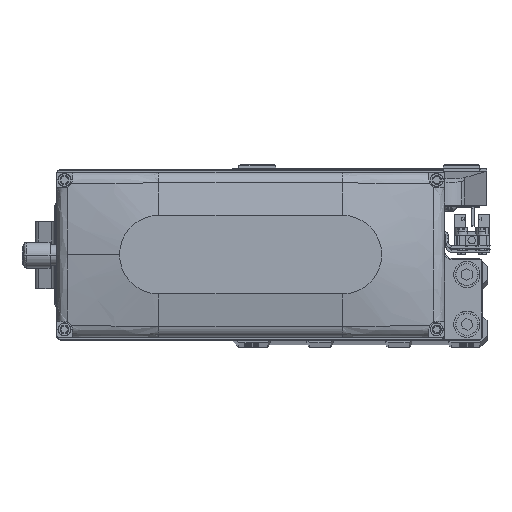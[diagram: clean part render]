
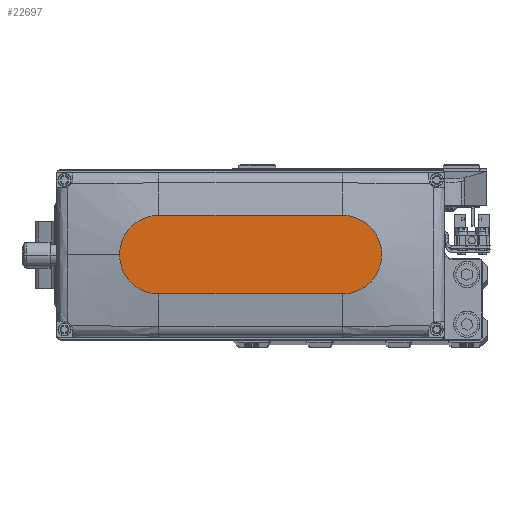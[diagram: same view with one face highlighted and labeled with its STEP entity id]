
A CAD part, top view. The second image highlights one B-rep face of the part: STEP entity #22697.
In plain terms, the highlighted planar face has unit normal (0, 0, 1).
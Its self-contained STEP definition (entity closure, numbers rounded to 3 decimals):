
#1425 = EDGE_LOOP ( 'NONE', ( #11982, #15395, #12683, #27023, #32508 ) ) ;
#1665 = EDGE_CURVE ( 'NONE', #28643, #29615, #27949, .T. ) ;
#2046 = EDGE_CURVE ( 'NONE', #22090, #30026, #31889, .T. ) ;
#4756 = CIRCLE ( 'NONE', #31956, 15. ) ;
#5053 = EDGE_CURVE ( 'NONE', #43294, #28643, #4756, .T. ) ;
#5590 = DIRECTION ( 'NONE',  ( 1., 0., 0. ) ) ;
#8748 = VECTOR ( 'NONE', #44406, 1000. ) ;
#8928 = DIRECTION ( 'NONE',  ( 1., 0., 0. ) ) ;
#9215 = PLANE ( 'NONE',  #9786 ) ;
#9630 = CARTESIAN_POINT ( 'NONE',  ( -35., 0., 35. ) ) ;
#9786 = AXIS2_PLACEMENT_3D ( 'NONE', #24080, #38911, #5590 ) ;
#11982 = ORIENTED_EDGE ( 'NONE', *, *, #20710, .T. ) ;
#12683 = ORIENTED_EDGE ( 'NONE', *, *, #43123, .T. ) ;
#12749 = CARTESIAN_POINT ( 'NONE',  ( -35., 15., 35. ) ) ;
#13357 = DIRECTION ( 'NONE',  ( 1., 0., 0. ) ) ;
#14698 = LINE ( 'NONE', #29552, #8748 ) ;
#15023 = CARTESIAN_POINT ( 'NONE',  ( 35., 15., 35. ) ) ;
#15395 = ORIENTED_EDGE ( 'NONE', *, *, #2046, .T. ) ;
#20668 = VECTOR ( 'NONE', #27600, 1000. ) ;
#20710 = EDGE_CURVE ( 'NONE', #29615, #22090, #46112, .T. ) ;
#22061 = CARTESIAN_POINT ( 'NONE',  ( -35., -15., 35. ) ) ;
#22090 = VERTEX_POINT ( 'NONE', #40934 ) ;
#22697 = ADVANCED_FACE ( 'NONE', ( #42562 ), #9215, .T. ) ;
#24080 = CARTESIAN_POINT ( 'NONE',  ( 0., 0., 35. ) ) ;
#24493 = DIRECTION ( 'NONE',  ( 0., 0., 1. ) ) ;
#27023 = ORIENTED_EDGE ( 'NONE', *, *, #5053, .T. ) ;
#27440 = CARTESIAN_POINT ( 'NONE',  ( 35., 0., 35. ) ) ;
#27600 = DIRECTION ( 'NONE',  ( -1., 0., 0. ) ) ;
#27949 = CIRCLE ( 'NONE', #27991, 15. ) ;
#27991 = AXIS2_PLACEMENT_3D ( 'NONE', #31855, #46729, #13357 ) ;
#28643 = VERTEX_POINT ( 'NONE', #46894 ) ;
#29552 = CARTESIAN_POINT ( 'NONE',  ( -35., -15., 35. ) ) ;
#29615 = VERTEX_POINT ( 'NONE', #15023 ) ;
#30026 = VERTEX_POINT ( 'NONE', #22061 ) ;
#31196 = AXIS2_PLACEMENT_3D ( 'NONE', #9630, #24493, #39315 ) ;
#31855 = CARTESIAN_POINT ( 'NONE',  ( 35., 0., 35. ) ) ;
#31889 = CIRCLE ( 'NONE', #31196, 15. ) ;
#31956 = AXIS2_PLACEMENT_3D ( 'NONE', #27440, #42277, #8928 ) ;
#32508 = ORIENTED_EDGE ( 'NONE', *, *, #1665, .T. ) ;
#38911 = DIRECTION ( 'NONE',  ( 0., 0., 1. ) ) ;
#39315 = DIRECTION ( 'NONE',  ( 1., 0., 0. ) ) ;
#40934 = CARTESIAN_POINT ( 'NONE',  ( -35., 15., 35. ) ) ;
#42277 = DIRECTION ( 'NONE',  ( 0., 0., 1. ) ) ;
#42562 = FACE_OUTER_BOUND ( 'NONE', #1425, .T. ) ;
#42592 = CARTESIAN_POINT ( 'NONE',  ( 35., -15., 35. ) ) ;
#43123 = EDGE_CURVE ( 'NONE', #30026, #43294, #14698, .T. ) ;
#43294 = VERTEX_POINT ( 'NONE', #42592 ) ;
#44406 = DIRECTION ( 'NONE',  ( 1., 0., 0. ) ) ;
#46112 = LINE ( 'NONE', #12749, #20668 ) ;
#46729 = DIRECTION ( 'NONE',  ( 0., 0., 1. ) ) ;
#46894 = CARTESIAN_POINT ( 'NONE',  ( 50., 0., 35. ) ) ;
